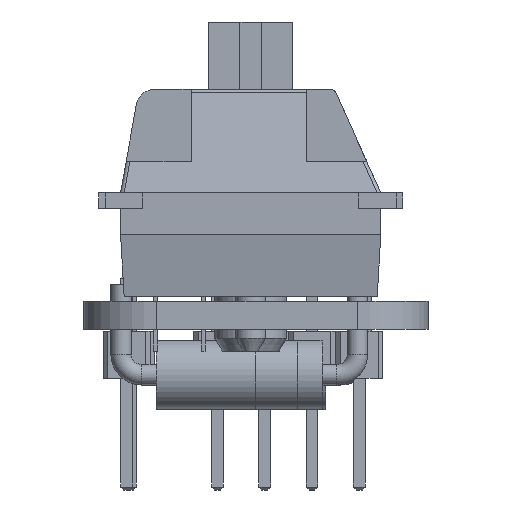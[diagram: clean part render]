
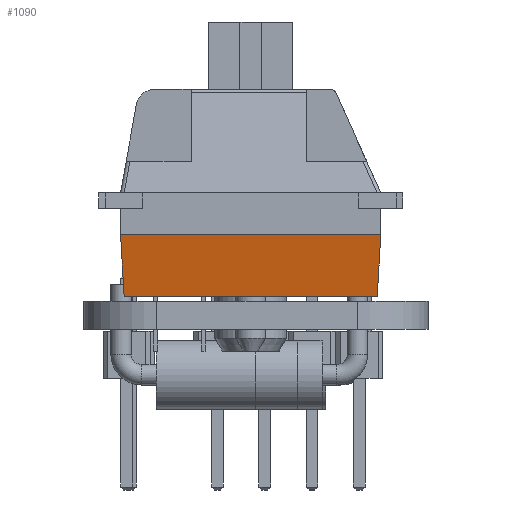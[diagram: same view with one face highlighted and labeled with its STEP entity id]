
A CAD part, left-side view. The second image highlights one B-rep face of the part: STEP entity #1090.
In plain terms, the highlighted planar face has unit normal (-0.983, 0, -0.185) as drawn and (-0.983, -0.185, 0) by its records, which use the part's own axes.
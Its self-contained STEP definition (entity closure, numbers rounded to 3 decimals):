
#115 = VERTEX_POINT('',#116);
#116 = CARTESIAN_POINT('',(-6.37,-5.6,6.8));
#124 = EDGE_CURVE('',#125,#115,#127,.T.);
#125 = VERTEX_POINT('',#126);
#126 = CARTESIAN_POINT('',(-6.37,-5.6,-6.8));
#127 = LINE('',#128,#129);
#128 = CARTESIAN_POINT('',(-6.37,-5.6,-6.8));
#129 = VECTOR('',#130,1.);
#130 = DIRECTION('',(0.,0.,1.));
#1090 = ADVANCED_FACE('',(#1091),#1116,.T.);
#1091 = FACE_BOUND('',#1092,.T.);
#1092 = EDGE_LOOP('',(#1093,#1101,#1102,#1110));
#1093 = ORIENTED_EDGE('',*,*,#1094,.T.);
#1094 = EDGE_CURVE('',#1095,#125,#1097,.T.);
#1095 = VERTEX_POINT('',#1096);
#1096 = CARTESIAN_POINT('',(-6.99,-2.3,-6.99));
#1097 = LINE('',#1098,#1099);
#1098 = CARTESIAN_POINT('',(-6.99,-2.3,-6.99));
#1099 = VECTOR('',#1100,1.);
#1100 = DIRECTION('',(0.184,-0.981,0.056)
  );
#1101 = ORIENTED_EDGE('',*,*,#124,.T.);
#1102 = ORIENTED_EDGE('',*,*,#1103,.F.);
#1103 = EDGE_CURVE('',#1104,#115,#1106,.T.);
#1104 = VERTEX_POINT('',#1105);
#1105 = CARTESIAN_POINT('',(-6.99,-2.3,6.99));
#1106 = LINE('',#1107,#1108);
#1107 = CARTESIAN_POINT('',(-6.99,-2.3,6.99));
#1108 = VECTOR('',#1109,1.);
#1109 = DIRECTION('',(0.184,-0.981,-0.056
    ));
#1110 = ORIENTED_EDGE('',*,*,#1111,.F.);
#1111 = EDGE_CURVE('',#1095,#1104,#1112,.T.);
#1112 = LINE('',#1113,#1114);
#1113 = CARTESIAN_POINT('',(-6.99,-2.3,-6.99));
#1114 = VECTOR('',#1115,1.);
#1115 = DIRECTION('',(0.,0.,1.));
#1116 = PLANE('',#1117);
#1117 = AXIS2_PLACEMENT_3D('',#1118,#1119,#1120);
#1118 = CARTESIAN_POINT('',(-7.169,-1.347,0.));
#1119 = DIRECTION('',(-0.983,-0.185,0.));
#1120 = DIRECTION('',(0.,0.,1.));
